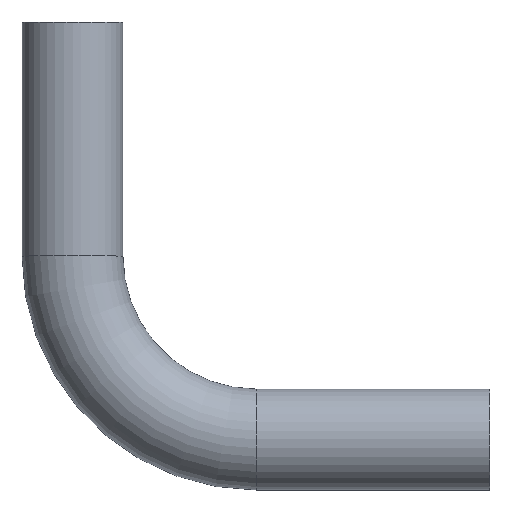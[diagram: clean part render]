
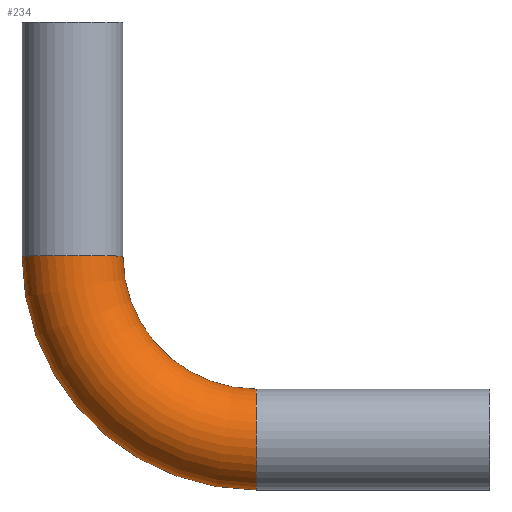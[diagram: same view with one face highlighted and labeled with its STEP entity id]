
A CAD part, top view. The second image highlights one B-rep face of the part: STEP entity #234.
In plain terms, the highlighted toroidal (fillet/blend) face has major radius 200 mm and minor radius 55 mm.
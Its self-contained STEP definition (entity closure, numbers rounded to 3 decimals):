
#2 = VERTEX_POINT ( 'NONE', #296 ) ;
#5 = VERTEX_POINT ( 'NONE', #301 ) ;
#9 = ORIENTED_EDGE ( 'NONE', *, *, #285, .T. ) ;
#14 = ORIENTED_EDGE ( 'NONE', *, *, #224, .F. ) ;
#15 = ORIENTED_EDGE ( 'NONE', *, *, #207, .F. ) ;
#29 = VERTEX_POINT ( 'NONE', #306 ) ;
#30 = VERTEX_POINT ( 'NONE', #308 ) ;
#67 = AXIS2_PLACEMENT_3D ( 'NONE', #408, #409, #410 ) ;
#69 = AXIS2_PLACEMENT_3D ( 'NONE', #399, #400, #401 ) ;
#116 = EDGE_LOOP ( 'NONE', ( #14, #15, #202, #9 ) ) ;
#127 = CIRCLE ( 'NONE', #226, 55. ) ;
#132 = CIRCLE ( 'NONE', #210, 255. ) ;
#146 = TOROIDAL_SURFACE ( 'NONE', #213, 200., 55. ) ;
#149 = FACE_OUTER_BOUND ( 'NONE', #116, .T. ) ;
#192 = CIRCLE ( 'NONE', #69, 145. ) ;
#202 = ORIENTED_EDGE ( 'NONE', *, *, #282, .T. ) ;
#207 = EDGE_CURVE ( 'NONE', #5, #29, #127, .T. ) ;
#210 = AXIS2_PLACEMENT_3D ( 'NONE', #339, #340, #341 ) ;
#213 = AXIS2_PLACEMENT_3D ( 'NONE', #361, #360, #363 ) ;
#224 = EDGE_CURVE ( 'NONE', #29, #2, #132, .T. ) ;
#226 = AXIS2_PLACEMENT_3D ( 'NONE', #313, #314, #315 ) ;
#234 = ADVANCED_FACE ( 'NONE', ( #149 ), #146, .T. ) ;
#262 = CIRCLE ( 'NONE', #67, 55. ) ;
#282 = EDGE_CURVE ( 'NONE', #5, #30, #192, .T. ) ;
#285 = EDGE_CURVE ( 'NONE', #30, #2, #262, .T. ) ;
#296 = CARTESIAN_POINT ( 'NONE',  ( -410., 200., 0. ) ) ;
#301 = CARTESIAN_POINT ( 'NONE',  ( -155., 55., 0. ) ) ;
#306 = CARTESIAN_POINT ( 'NONE',  ( -155., -55., 0. ) ) ;
#308 = CARTESIAN_POINT ( 'NONE',  ( -300., 200., 0. ) ) ;
#313 = CARTESIAN_POINT ( 'NONE',  ( -155., 0., 0. ) ) ;
#314 = DIRECTION ( 'NONE',  ( 1., 0., 0. ) ) ;
#315 = DIRECTION ( 'NONE',  ( 0., 0., -1. ) ) ;
#339 = CARTESIAN_POINT ( 'NONE',  ( -155., 200., 0. ) ) ;
#340 = DIRECTION ( 'NONE',  ( 0., 0., -1. ) ) ;
#341 = DIRECTION ( 'NONE',  ( -1., 0., 0. ) ) ;
#360 = DIRECTION ( 'NONE',  ( 0., 0., -1. ) ) ;
#361 = CARTESIAN_POINT ( 'NONE',  ( -155., 200., 0. ) ) ;
#363 = DIRECTION ( 'NONE',  ( -1., 0., 0. ) ) ;
#399 = CARTESIAN_POINT ( 'NONE',  ( -155., 200., 0. ) ) ;
#400 = DIRECTION ( 'NONE',  ( 0., 0., -1. ) ) ;
#401 = DIRECTION ( 'NONE',  ( -1., 0., 0. ) ) ;
#408 = CARTESIAN_POINT ( 'NONE',  ( -355., 200., 0. ) ) ;
#409 = DIRECTION ( 'NONE',  ( 0., -1., 0. ) ) ;
#410 = DIRECTION ( 'NONE',  ( 0., 0., -1. ) ) ;
